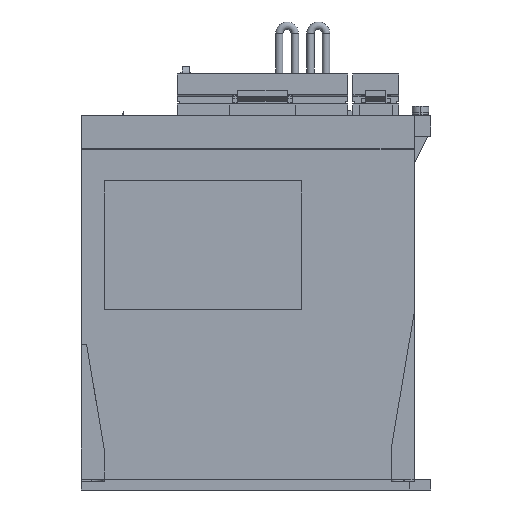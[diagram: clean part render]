
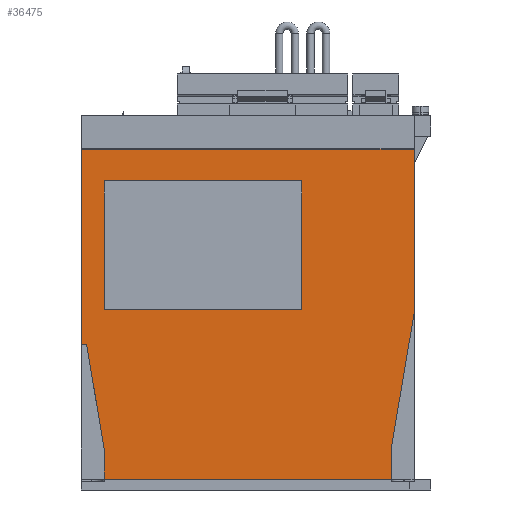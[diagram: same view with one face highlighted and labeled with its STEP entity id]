
A CAD part, left-side view. The second image highlights one B-rep face of the part: STEP entity #36475.
In plain terms, the highlighted planar face has unit normal (-1, 0, 0).
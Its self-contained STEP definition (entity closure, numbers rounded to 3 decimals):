
#7265 = CARTESIAN_POINT ( 'NONE',  ( -6., 5., 163.8 ) ) ;
#7424 = DIRECTION ( 'NONE',  ( 0., 0., -1. ) ) ;
#7425 = VECTOR ( 'NONE', #7424, 1000. ) ;
#7426 = CARTESIAN_POINT ( 'NONE',  ( -6., 5., 338.642 ) ) ;
#7427 = LINE ( 'NONE', #7426, #7425 ) ;
#7428 = CARTESIAN_POINT ( 'NONE',  ( -6., 5., 70. ) ) ;
#10450 = DIRECTION ( 'NONE',  ( 0., 0.167, 0.986 ) ) ;
#10451 = VECTOR ( 'NONE', #10450, 1000. ) ;
#10452 = CARTESIAN_POINT ( 'NONE',  ( -6., -6., 20. ) ) ;
#10453 = LINE ( 'NONE', #10452, #10451 ) ;
#10454 = CARTESIAN_POINT ( 'NONE',  ( -6., 2.462, 70. ) ) ;
#10455 = DIRECTION ( 'NONE',  ( 0., -1., 0. ) ) ;
#10456 = VECTOR ( 'NONE', #10455, 1000. ) ;
#10457 = CARTESIAN_POINT ( 'NONE',  ( -6., 5., 70. ) ) ;
#10458 = LINE ( 'NONE', #10457, #10456 ) ;
#10484 = DIRECTION ( 'NONE',  ( 0., -1., 0. ) ) ;
#10485 = VECTOR ( 'NONE', #10484, 1000. ) ;
#10487 = CARTESIAN_POINT ( 'NONE',  ( -6., -6., 86.6 ) ) ;
#10488 = LINE ( 'NONE', #10487, #10485 ) ;
#10489 = CARTESIAN_POINT ( 'NONE',  ( -6., -101., 148.6 ) ) ;
#10490 = CARTESIAN_POINT ( 'NONE',  ( -6., -101., 86.6 ) ) ;
#10491 = DIRECTION ( 'NONE',  ( 0., 0., 1. ) ) ;
#10492 = VECTOR ( 'NONE', #10491, 1000. ) ;
#10493 = CARTESIAN_POINT ( 'NONE',  ( -6., -101., 86.6 ) ) ;
#10494 = LINE ( 'NONE', #10493, #10492 ) ;
#10495 = DIRECTION ( 'NONE',  ( 0., 1., 0. ) ) ;
#10496 = DIRECTION ( 'NONE',  ( 1., 0., 0. ) ) ;
#10497 = CARTESIAN_POINT ( 'NONE',  ( -6., 5., 338.642 ) ) ;
#10498 = AXIS2_PLACEMENT_3D ( 'NONE', #10497, #10496, #10495 ) ;
#10499 = PLANE ( 'NONE',  #10498 ) ;
#10500 = FACE_OUTER_BOUND ( 'NONE', #36549, .T. ) ;
#10501 = FACE_BOUND ( 'NONE', #36476, .T. ) ;
#10512 = CARTESIAN_POINT ( 'NONE',  ( -6., -6., 5.2 ) ) ;
#10513 = DIRECTION ( 'NONE',  ( 0., 0., -1. ) ) ;
#10514 = VECTOR ( 'NONE', #10513, 1000. ) ;
#10515 = CARTESIAN_POINT ( 'NONE',  ( -6., -6., 20. ) ) ;
#10517 = LINE ( 'NONE', #10515, #10514 ) ;
#10518 = CARTESIAN_POINT ( 'NONE',  ( -6., -6., 20. ) ) ;
#10541 = CARTESIAN_POINT ( 'NONE',  ( -6., -155., 85. ) ) ;
#10542 = DIRECTION ( 'NONE',  ( 0., 0., -1. ) ) ;
#10543 = VECTOR ( 'NONE', #10542, 1000. ) ;
#10544 = CARTESIAN_POINT ( 'NONE',  ( -6., -155., 338.642 ) ) ;
#10545 = LINE ( 'NONE', #10544, #10543 ) ;
#10546 = CARTESIAN_POINT ( 'NONE',  ( -6., -155., 163.8 ) ) ;
#10552 = CARTESIAN_POINT ( 'NONE',  ( -6., -6., 86.6 ) ) ;
#10585 = DIRECTION ( 'NONE',  ( 0., -0.167, 0.986 ) ) ;
#10586 = VECTOR ( 'NONE', #10585, 1000. ) ;
#10587 = CARTESIAN_POINT ( 'NONE',  ( -6., -144., 20. ) ) ;
#10588 = LINE ( 'NONE', #10587, #10586 ) ;
#10589 = LINE ( 'NONE', #10650, #10649 ) ;
#10590 = CARTESIAN_POINT ( 'NONE',  ( -6., -144., 20. ) ) ;
#10591 = DIRECTION ( 'NONE',  ( 0., 0., -1. ) ) ;
#10592 = VECTOR ( 'NONE', #10591, 1000. ) ;
#10593 = CARTESIAN_POINT ( 'NONE',  ( -6., -144., 20. ) ) ;
#10594 = LINE ( 'NONE', #10593, #10592 ) ;
#10595 = CARTESIAN_POINT ( 'NONE',  ( -6., -144., 5.2 ) ) ;
#10596 = DIRECTION ( 'NONE',  ( 0., -1., 0. ) ) ;
#10597 = VECTOR ( 'NONE', #10596, 1000. ) ;
#10598 = CARTESIAN_POINT ( 'NONE',  ( -6., -6., 5.2 ) ) ;
#10599 = LINE ( 'NONE', #10598, #10597 ) ;
#10633 = DIRECTION ( 'NONE',  ( 0., 1., 0. ) ) ;
#10634 = VECTOR ( 'NONE', #10633, 1000. ) ;
#10635 = CARTESIAN_POINT ( 'NONE',  ( -6., -6., 148.6 ) ) ;
#10636 = LINE ( 'NONE', #10635, #10634 ) ;
#10637 = CARTESIAN_POINT ( 'NONE',  ( -6., -6., 148.6 ) ) ;
#10638 = DIRECTION ( 'NONE',  ( 0., 0., -1. ) ) ;
#10639 = VECTOR ( 'NONE', #10638, 1000. ) ;
#10640 = CARTESIAN_POINT ( 'NONE',  ( -6., -6., 86.6 ) ) ;
#10641 = LINE ( 'NONE', #10640, #10639 ) ;
#10648 = DIRECTION ( 'NONE',  ( 0., -1., 0. ) ) ;
#10649 = VECTOR ( 'NONE', #10648, 1000. ) ;
#10650 = CARTESIAN_POINT ( 'NONE',  ( -6., 5., 163.8 ) ) ;
#34711 = VERTEX_POINT ( 'NONE', #7265 ) ;
#34770 = VERTEX_POINT ( 'NONE', #7428 ) ;
#34772 = EDGE_CURVE ( 'NONE', #34711, #34770, #7427, .T. ) ;
#36462 = ORIENTED_EDGE ( 'NONE', *, *, #36463, .T. ) ;
#36463 = EDGE_CURVE ( 'NONE', #34770, #36464, #10458, .T. ) ;
#36464 = VERTEX_POINT ( 'NONE', #10454 ) ;
#36465 = ORIENTED_EDGE ( 'NONE', *, *, #36466, .F. ) ;
#36466 = EDGE_CURVE ( 'NONE', #36467, #36464, #10453, .T. ) ;
#36467 = VERTEX_POINT ( 'NONE', #10518 ) ;
#36468 = ORIENTED_EDGE ( 'NONE', *, *, #36469, .T. ) ;
#36469 = EDGE_CURVE ( 'NONE', #36467, #36470, #10517, .T. ) ;
#36470 = VERTEX_POINT ( 'NONE', #10512 ) ;
#36475 = ADVANCED_FACE ( 'NONE', ( #10501, #10500 ), #10499, .F. ) ;
#36476 = EDGE_LOOP ( 'NONE', ( #36477, #36481, #36484, #36547 ) ) ;
#36477 = ORIENTED_EDGE ( 'NONE', *, *, #36478, .F. ) ;
#36478 = EDGE_CURVE ( 'NONE', #36479, #36480, #10494, .T. ) ;
#36479 = VERTEX_POINT ( 'NONE', #10490 ) ;
#36480 = VERTEX_POINT ( 'NONE', #10489 ) ;
#36481 = ORIENTED_EDGE ( 'NONE', *, *, #36482, .F. ) ;
#36482 = EDGE_CURVE ( 'NONE', #36483, #36479, #10488, .T. ) ;
#36483 = VERTEX_POINT ( 'NONE', #10552 ) ;
#36484 = ORIENTED_EDGE ( 'NONE', *, *, #36545, .F. ) ;
#36486 = VERTEX_POINT ( 'NONE', #10546 ) ;
#36488 = EDGE_CURVE ( 'NONE', #36486, #36489, #10545, .T. ) ;
#36489 = VERTEX_POINT ( 'NONE', #10541 ) ;
#36532 = ORIENTED_EDGE ( 'NONE', *, *, #36533, .T. ) ;
#36533 = EDGE_CURVE ( 'NONE', #36470, #36534, #10599, .T. ) ;
#36534 = VERTEX_POINT ( 'NONE', #10595 ) ;
#36535 = ORIENTED_EDGE ( 'NONE', *, *, #36536, .F. ) ;
#36536 = EDGE_CURVE ( 'NONE', #36537, #36534, #10594, .T. ) ;
#36537 = VERTEX_POINT ( 'NONE', #10590 ) ;
#36538 = ORIENTED_EDGE ( 'NONE', *, *, #36539, .T. ) ;
#36539 = EDGE_CURVE ( 'NONE', #36537, #36489, #10588, .T. ) ;
#36540 = ORIENTED_EDGE ( 'NONE', *, *, #36488, .F. ) ;
#36541 = ORIENTED_EDGE ( 'NONE', *, *, #36542, .F. ) ;
#36542 = EDGE_CURVE ( 'NONE', #34711, #36486, #10589, .T. ) ;
#36545 = EDGE_CURVE ( 'NONE', #36546, #36483, #10641, .T. ) ;
#36546 = VERTEX_POINT ( 'NONE', #10637 ) ;
#36547 = ORIENTED_EDGE ( 'NONE', *, *, #36548, .F. ) ;
#36548 = EDGE_CURVE ( 'NONE', #36480, #36546, #10636, .T. ) ;
#36549 = EDGE_LOOP ( 'NONE', ( #36550, #36462, #36465, #36468, #36532, #36535, #36538, #36540, #36541 ) ) ;
#36550 = ORIENTED_EDGE ( 'NONE', *, *, #34772, .T. ) ;
